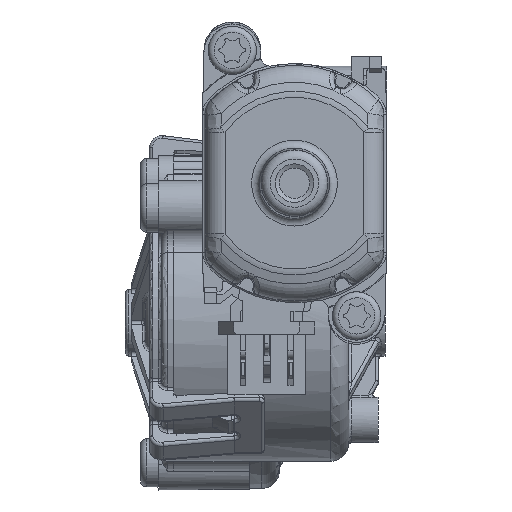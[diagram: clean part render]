
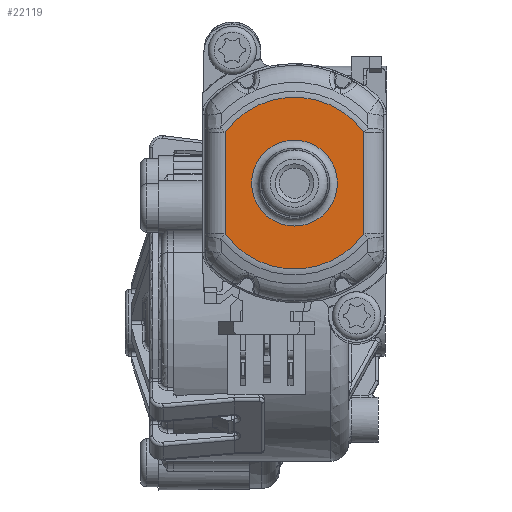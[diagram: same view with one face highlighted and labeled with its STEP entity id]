
A CAD part, front view. The second image highlights one B-rep face of the part: STEP entity #22119.
In plain terms, the highlighted planar face has unit normal (0, -1, 0) as drawn and (0, 1, 0) by its records, which use the part's own axes.
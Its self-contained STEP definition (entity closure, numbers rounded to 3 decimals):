
#18214=FACE_BOUND('',#27741,.F.);
#18215=FACE_BOUND('',#27742,.F.);
#22119=ADVANCED_FACE('',(#18214,#18215),#24593,.F.);
#24593=PLANE('',#58584);
#27741=EDGE_LOOP('',(#35098));
#27742=EDGE_LOOP('',(#35099,#35100,#35101,#35102));
#30465=LINE('',#73973,#32545);
#30466=LINE('',#73974,#32546);
#32545=VECTOR('',#62975,1.);
#32546=VECTOR('',#62976,1.);
#35098=ORIENTED_EDGE('',*,*,#50842,.F.);
#35099=ORIENTED_EDGE('',*,*,#50888,.F.);
#35100=ORIENTED_EDGE('',*,*,#50899,.T.);
#35101=ORIENTED_EDGE('',*,*,#50857,.F.);
#35102=ORIENTED_EDGE('',*,*,#50900,.T.);
#47076=VERTEX_POINT('',#73359);
#47089=VERTEX_POINT('',#73521);
#47090=VERTEX_POINT('',#73522);
#47097=VERTEX_POINT('',#73609);
#47110=VERTEX_POINT('',#73836);
#50842=EDGE_CURVE('',#47076,#47076,#56688,.T.);
#50857=EDGE_CURVE('',#47089,#47090,#56689,.T.);
#50888=EDGE_CURVE('',#47110,#47097,#56692,.T.);
#50899=EDGE_CURVE('',#47110,#47090,#30465,.T.);
#50900=EDGE_CURVE('',#47089,#47097,#30466,.T.);
#56688=CIRCLE('',#58572,7.11);
#56689=CIRCLE('',#58575,14.237);
#56692=CIRCLE('',#58581,14.237);
#58572=AXIS2_PLACEMENT_3D('',#73358,#62951,#62952);
#58575=AXIS2_PLACEMENT_3D('',#73520,#62957,#62958);
#58581=AXIS2_PLACEMENT_3D('',#73837,#62969,#62970);
#58584=AXIS2_PLACEMENT_3D('',#73975,#62977,#62978);
#62951=DIRECTION('',(0.,-1.,0.));
#62952=DIRECTION('',(-1.,0.,0.));
#62957=DIRECTION('',(0.,1.,0.));
#62958=DIRECTION('',(0.,0.,1.));
#62969=DIRECTION('',(0.,1.,0.));
#62970=DIRECTION('',(-1.,0.,0.));
#62975=DIRECTION('',(0.,0.,1.));
#62976=DIRECTION('',(0.,0.,-1.));
#62977=DIRECTION('',(0.,-1.,0.));
#62978=DIRECTION('',(-1.,0.,0.));
#73358=CARTESIAN_POINT('',(0.,-78.6,0.));
#73359=CARTESIAN_POINT('',(-7.11,-78.6,0.));
#73520=CARTESIAN_POINT('',(0.,-78.6,0.));
#73521=CARTESIAN_POINT('',(-11.5,-78.6,8.392));
#73522=CARTESIAN_POINT('',(11.5,-78.6,8.392));
#73609=CARTESIAN_POINT('',(-11.5,-78.6,-8.392));
#73836=CARTESIAN_POINT('',(11.5,-78.6,-8.392));
#73837=CARTESIAN_POINT('',(0.,-78.6,0.));
#73973=CARTESIAN_POINT('',(11.5,-78.6,0.));
#73974=CARTESIAN_POINT('',(-11.5,-78.6,0.));
#73975=CARTESIAN_POINT('',(0.,-78.6,0.));
